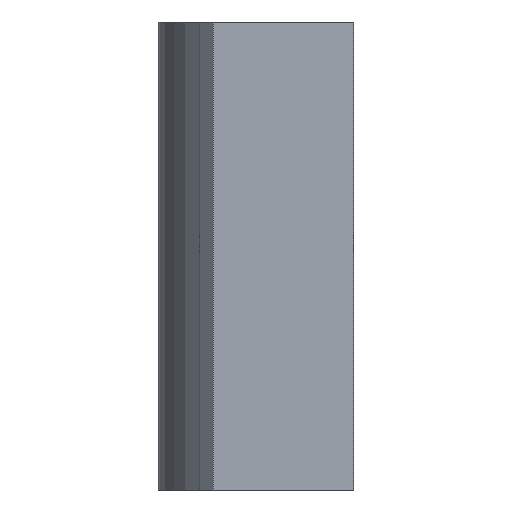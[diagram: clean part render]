
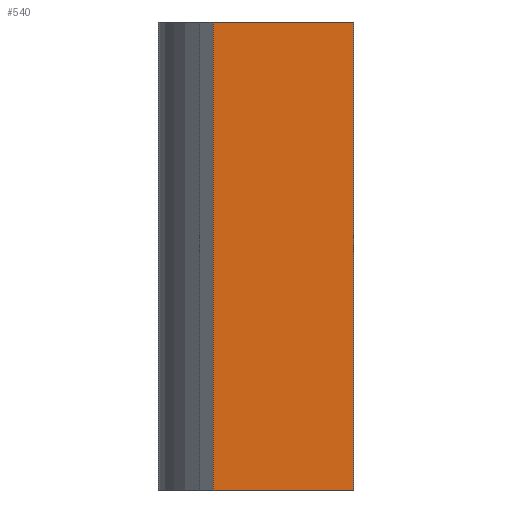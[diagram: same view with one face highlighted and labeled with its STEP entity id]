
A CAD part, left-side view. The second image highlights one B-rep face of the part: STEP entity #540.
In plain terms, the highlighted planar face has unit normal (-1, 0, 0).
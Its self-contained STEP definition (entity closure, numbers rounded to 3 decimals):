
#8 = VECTOR ( 'NONE', #402, 1000. ) ;
#32 = ORIENTED_EDGE ( 'NONE', *, *, #497, .F. ) ;
#60 = PLANE ( 'NONE',  #726 ) ;
#126 = VERTEX_POINT ( 'NONE', #430 ) ;
#140 = FACE_OUTER_BOUND ( 'NONE', #898, .T. ) ;
#185 = LINE ( 'NONE', #749, #808 ) ;
#205 = VERTEX_POINT ( 'NONE', #277 ) ;
#217 = DIRECTION ( 'NONE',  ( 0., 0., 1. ) ) ;
#249 = EDGE_CURVE ( 'NONE', #659, #909, #270, .T. ) ;
#251 = DIRECTION ( 'NONE',  ( 0., 0., -1. ) ) ;
#270 = LINE ( 'NONE', #684, #580 ) ;
#277 = CARTESIAN_POINT ( 'NONE',  ( -3.15, -0.35, 1.5 ) ) ;
#337 = LINE ( 'NONE', #554, #445 ) ;
#344 = EDGE_CURVE ( 'NONE', #205, #126, #827, .T. ) ;
#345 = CARTESIAN_POINT ( 'NONE',  ( -3.15, -0.35, 1.5 ) ) ;
#402 = DIRECTION ( 'NONE',  ( 0., 1., 0. ) ) ;
#430 = CARTESIAN_POINT ( 'NONE',  ( -3.15, 0.55, 1.5 ) ) ;
#434 = DIRECTION ( 'NONE',  ( -1., 0., 0. ) ) ;
#445 = VECTOR ( 'NONE', #914, 1000. ) ;
#497 = EDGE_CURVE ( 'NONE', #205, #659, #337, .T. ) ;
#540 = ADVANCED_FACE ( 'NONE', ( #140 ), #60, .T. ) ;
#546 = ORIENTED_EDGE ( 'NONE', *, *, #344, .T. ) ;
#554 = CARTESIAN_POINT ( 'NONE',  ( -3.15, -0.35, 1.5 ) ) ;
#580 = VECTOR ( 'NONE', #620, 1000. ) ;
#589 = ORIENTED_EDGE ( 'NONE', *, *, #249, .F. ) ;
#620 = DIRECTION ( 'NONE',  ( 0., 1., 0. ) ) ;
#659 = VERTEX_POINT ( 'NONE', #853 ) ;
#684 = CARTESIAN_POINT ( 'NONE',  ( -3.15, -0.35, -1.5 ) ) ;
#690 = CARTESIAN_POINT ( 'NONE',  ( -3.15, 0.55, -1.5 ) ) ;
#726 = AXIS2_PLACEMENT_3D ( 'NONE', #783, #434, #217 ) ;
#749 = CARTESIAN_POINT ( 'NONE',  ( -3.15, 0.55, 1.5 ) ) ;
#783 = CARTESIAN_POINT ( 'NONE',  ( -3.15, -0.35, 1.5 ) ) ;
#786 = ORIENTED_EDGE ( 'NONE', *, *, #850, .T. ) ;
#808 = VECTOR ( 'NONE', #251, 1000. ) ;
#827 = LINE ( 'NONE', #345, #8 ) ;
#850 = EDGE_CURVE ( 'NONE', #126, #909, #185, .T. ) ;
#853 = CARTESIAN_POINT ( 'NONE',  ( -3.15, -0.35, -1.5 ) ) ;
#898 = EDGE_LOOP ( 'NONE', ( #589, #32, #546, #786 ) ) ;
#909 = VERTEX_POINT ( 'NONE', #690 ) ;
#914 = DIRECTION ( 'NONE',  ( 0., 0., -1. ) ) ;
